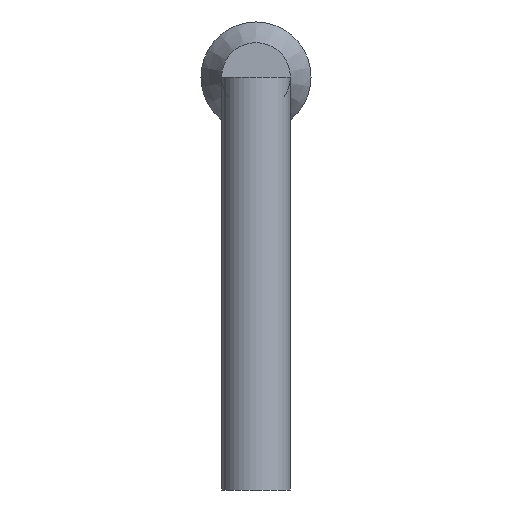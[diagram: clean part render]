
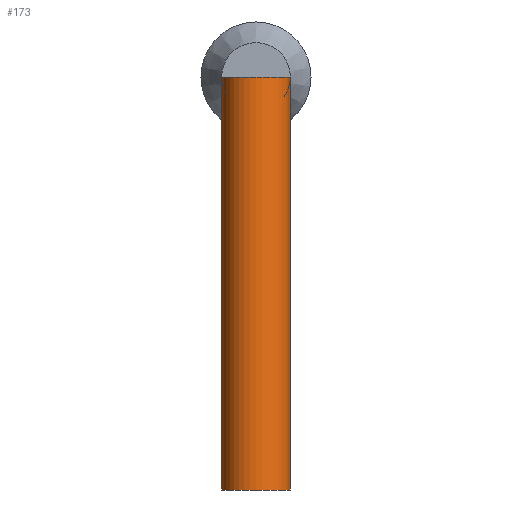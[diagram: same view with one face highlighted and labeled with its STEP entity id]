
A CAD part, left-side view. The second image highlights one B-rep face of the part: STEP entity #173.
In plain terms, the highlighted cylindrical face has radius 0.25 mm (diameter 0.5 mm), a full revolution.
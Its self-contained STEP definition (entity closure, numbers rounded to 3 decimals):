
#173 = ADVANCED_FACE('',(#174),#201,.T.);
#174 = FACE_BOUND('',#175,.T.);
#175 = EDGE_LOOP('',(#176,#185,#193,#200));
#176 = ORIENTED_EDGE('',*,*,#177,.F.);
#177 = EDGE_CURVE('',#178,#178,#180,.T.);
#178 = VERTEX_POINT('',#179);
#179 = CARTESIAN_POINT('',(-18.03,0.,-3.));
#180 = CIRCLE('',#181,0.25);
#181 = AXIS2_PLACEMENT_3D('',#182,#183,#184);
#182 = CARTESIAN_POINT('',(-17.78,0.,-3.));
#183 = DIRECTION('',(0.,0.,-1.));
#184 = DIRECTION('',(-1.,0.,-0.));
#185 = ORIENTED_EDGE('',*,*,#186,.F.);
#186 = EDGE_CURVE('',#187,#178,#189,.T.);
#187 = VERTEX_POINT('',#188);
#188 = CARTESIAN_POINT('',(-18.03,0.,0.));
#189 = LINE('',#190,#191);
#190 = CARTESIAN_POINT('',(-18.03,0.,0.));
#191 = VECTOR('',#192,1.);
#192 = DIRECTION('',(0.,0.,-1.));
#193 = ORIENTED_EDGE('',*,*,#194,.T.);
#194 = EDGE_CURVE('',#187,#187,#195,.T.);
#195 = CIRCLE('',#196,0.25);
#196 = AXIS2_PLACEMENT_3D('',#197,#198,#199);
#197 = CARTESIAN_POINT('',(-17.78,0.,0.));
#198 = DIRECTION('',(0.,0.,-1.));
#199 = DIRECTION('',(-1.,0.,-0.));
#200 = ORIENTED_EDGE('',*,*,#186,.T.);
#201 = CYLINDRICAL_SURFACE('',#202,0.25);
#202 = AXIS2_PLACEMENT_3D('',#203,#204,#205);
#203 = CARTESIAN_POINT('',(-17.78,0.,0.));
#204 = DIRECTION('',(0.,0.,-1.));
#205 = DIRECTION('',(-1.,0.,-0.));
